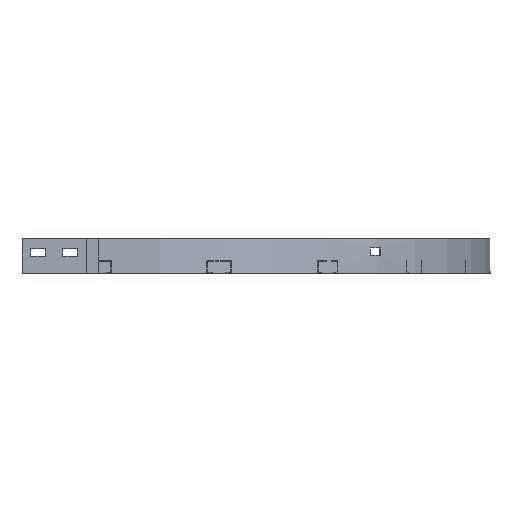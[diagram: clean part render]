
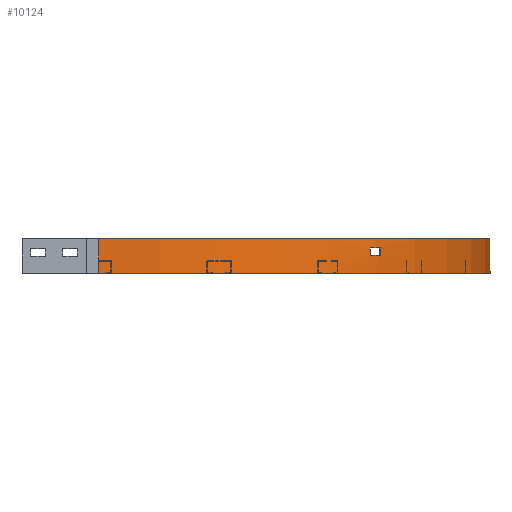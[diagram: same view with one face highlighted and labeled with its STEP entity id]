
A CAD part, front view. The second image highlights one B-rep face of the part: STEP entity #10124.
In plain terms, the highlighted cylindrical face has radius 611 mm (diameter 1222 mm), a partial arc.
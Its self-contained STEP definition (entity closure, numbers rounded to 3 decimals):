
#263=FACE_BOUND('',#1444,.T.);
#451=CYLINDRICAL_SURFACE('',#10679,611.);
#484=CIRCLE('',#10671,611.);
#489=CIRCLE('',#10678,611.);
#490=CIRCLE('',#10680,611.);
#491=CIRCLE('',#10681,611.);
#914=FACE_OUTER_BOUND('',#1443,.T.);
#1443=EDGE_LOOP('',(#6860,#6861,#6862,#6863));
#1444=EDGE_LOOP('',(#6864,#6865,#6866,#6867));
#2159=LINE('',#14137,#3235);
#2165=LINE('',#14161,#3241);
#2166=LINE('',#14166,#3242);
#2167=LINE('',#14169,#3243);
#3235=VECTOR('',#11494,304.8);
#3241=VECTOR('',#11520,304.8);
#3242=VECTOR('',#11523,304.8);
#3243=VECTOR('',#11526,304.8);
#4308=VERTEX_POINT('',#14130);
#4311=VERTEX_POINT('',#14135);
#4312=VERTEX_POINT('',#14139);
#4319=VERTEX_POINT('',#14157);
#4320=VERTEX_POINT('',#14162);
#4321=VERTEX_POINT('',#14163);
#4322=VERTEX_POINT('',#14165);
#4323=VERTEX_POINT('',#14167);
#5319=EDGE_CURVE('',#4311,#4308,#2159,.T.);
#5320=EDGE_CURVE('',#4308,#4312,#484,.T.);
#5330=EDGE_CURVE('',#4319,#4311,#489,.T.);
#5331=EDGE_CURVE('',#4312,#4319,#2165,.T.);
#5332=EDGE_CURVE('',#4320,#4321,#490,.T.);
#5333=EDGE_CURVE('',#4321,#4322,#2166,.T.);
#5334=EDGE_CURVE('',#4322,#4323,#491,.T.);
#5335=EDGE_CURVE('',#4323,#4320,#2167,.T.);
#6860=ORIENTED_EDGE('',*,*,#5319,.F.);
#6861=ORIENTED_EDGE('',*,*,#5330,.F.);
#6862=ORIENTED_EDGE('',*,*,#5331,.F.);
#6863=ORIENTED_EDGE('',*,*,#5320,.F.);
#6864=ORIENTED_EDGE('',*,*,#5332,.T.);
#6865=ORIENTED_EDGE('',*,*,#5333,.T.);
#6866=ORIENTED_EDGE('',*,*,#5334,.T.);
#6867=ORIENTED_EDGE('',*,*,#5335,.T.);
#10124=ADVANCED_FACE('',(#914,#263),#451,.T.);
#10671=AXIS2_PLACEMENT_3D('',#14140,#11497,#11498);
#10678=AXIS2_PLACEMENT_3D('',#14159,#11516,#11517);
#10679=AXIS2_PLACEMENT_3D('',#14160,#11518,#11519);
#10680=AXIS2_PLACEMENT_3D('',#14164,#11521,#11522);
#10681=AXIS2_PLACEMENT_3D('',#14168,#11524,#11525);
#11494=DIRECTION('',(0.,0.,1.));
#11497=DIRECTION('center_axis',(0.,0.,1.));
#11498=DIRECTION('ref_axis',(0.,-1.,0.));
#11516=DIRECTION('center_axis',(0.,0.,-1.));
#11517=DIRECTION('ref_axis',(0.,-1.,0.));
#11518=DIRECTION('center_axis',(0.,0.,1.));
#11519=DIRECTION('ref_axis',(0.,-1.,0.));
#11520=DIRECTION('',(0.,0.,-1.));
#11521=DIRECTION('center_axis',(0.,0.,1.));
#11522=DIRECTION('ref_axis',(0.,-1.,0.));
#11523=DIRECTION('',(0.,0.,-1.));
#11524=DIRECTION('center_axis',(0.,0.,-1.));
#11525=DIRECTION('ref_axis',(0.,-1.,0.));
#11526=DIRECTION('',(0.,0.,1.));
#14130=CARTESIAN_POINT('',(-455.5,-155.5,27.));
#14135=CARTESIAN_POINT('',(-455.5,-155.5,-27.));
#14137=CARTESIAN_POINT('',(-455.5,-155.5,-27.));
#14139=CARTESIAN_POINT('',(155.5,455.5,27.));
#14140=CARTESIAN_POINT('Origin',(-455.5,455.5,27.));
#14157=CARTESIAN_POINT('',(155.5,455.5,-27.));
#14159=CARTESIAN_POINT('Origin',(-455.5,455.5,-27.));
#14160=CARTESIAN_POINT('Origin',(-455.5,455.5,0.));
#14161=CARTESIAN_POINT('',(155.5,455.5,27.));
#14162=CARTESIAN_POINT('',(-31.247,15.807,12.5));
#14163=CARTESIAN_POINT('',(-15.692,31.365,12.5));
#14164=CARTESIAN_POINT('Origin',(-455.5,455.5,12.5));
#14165=CARTESIAN_POINT('',(-15.692,31.365,1.5));
#14166=CARTESIAN_POINT('',(-15.692,31.365,12.5));
#14167=CARTESIAN_POINT('',(-31.247,15.807,1.5));
#14168=CARTESIAN_POINT('Origin',(-455.5,455.5,1.5));
#14169=CARTESIAN_POINT('',(-31.247,15.807,1.5));
